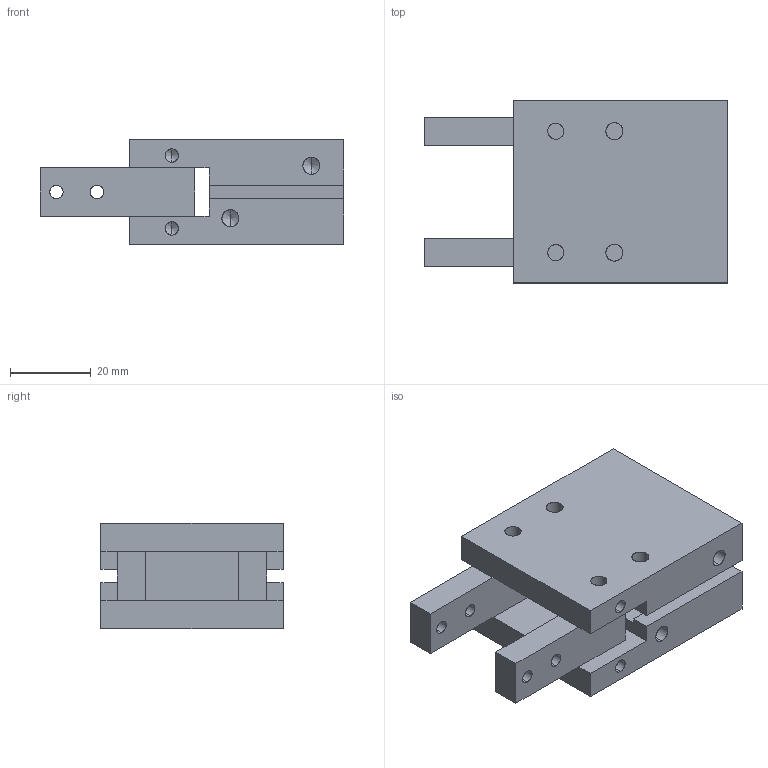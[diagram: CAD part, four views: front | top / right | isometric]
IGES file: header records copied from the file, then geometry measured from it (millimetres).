
Start section: SolidWorks IGES file using analytic representation for surfaces
Global section: file name: D:\MI\新增資料夾\Angular 2 Finger Gripper\FCHY-20.IGS; native system: SolidWorks 2013; preprocessor: SolidWorks 2013; author: Sam Lin; date: 160329.142203; units: millimetre
Bounding box: 75 x 45 x 26 mm (x, y, z)
Surface area: 17038 mm2 (no closed solid volume)
Topology: 0 solids, 0 shells, 113 faces, 1992 edges, 1972 vertices
Faces by surface type: revolution 70, bspline 43
